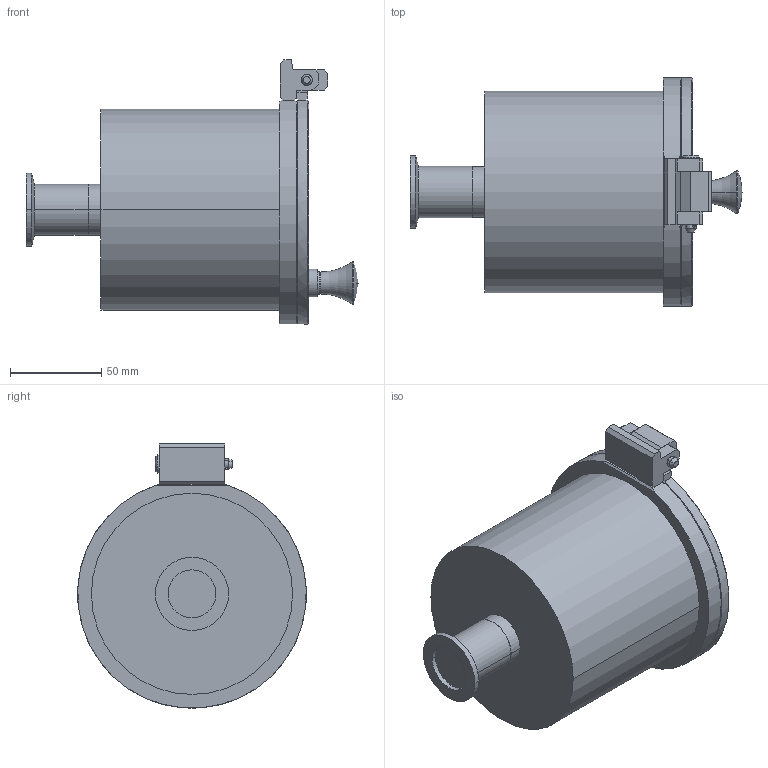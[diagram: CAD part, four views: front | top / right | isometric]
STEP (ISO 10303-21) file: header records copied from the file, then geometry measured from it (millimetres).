
FILE_DESCRIPTION (( 'STEP AP203' ), '1' );
FILE_NAME ('潰穢嫡-Leak detection tank_NQ100.STEP', '2026-09-02T05:19:36', ( '' ), ( '' ), 'SwSTEP 2.0', 'SolidWorks 2024', '' );
FILE_SCHEMA (( 'CONFIG_CONTROL_DESIGN' ));
Length unit declared in the file: millimetre
Products named in the file (1): 检漏罐-Leak detection tank_NQ100
Bounding box: 181.5 x 124.88 x 144.5 mm (x, y, z)
Volume: 1166310 mm3; surface area: 102504.5 mm2
Topology: 6 solids, 6 shells, 113 faces, 265 edges, 171 vertices
Faces by surface type: plane 59, cylinder 35, cone 11, torus 6, sphere 2
Entity records: 3378 total; most frequent: CARTESIAN_POINT 646, DIRECTION 569, ORIENTED_EDGE 530, EDGE_CURVE 265, AXIS2_PLACEMENT_3D 206, VERTEX_POINT 171, LINE 157, VECTOR 157
